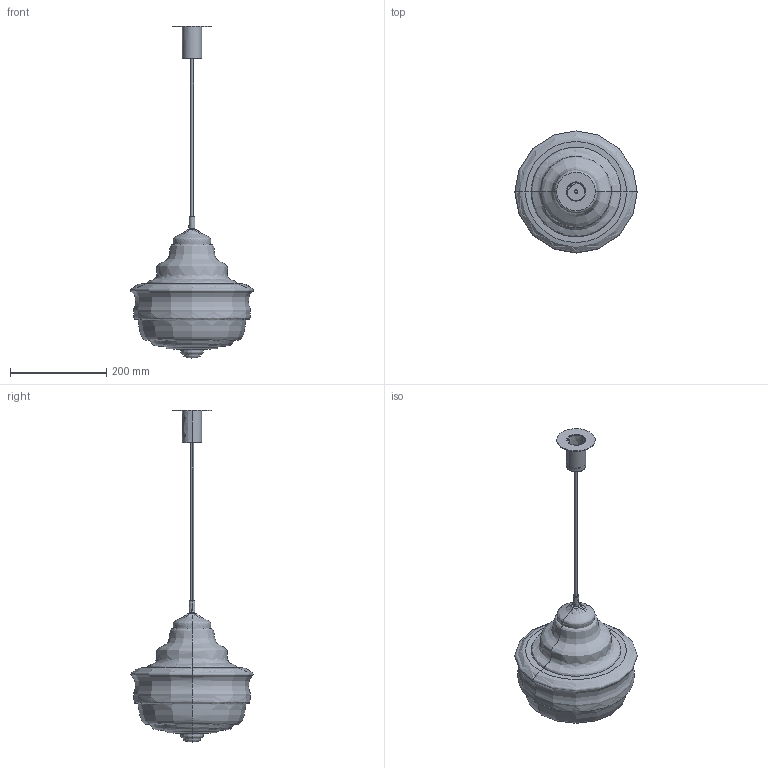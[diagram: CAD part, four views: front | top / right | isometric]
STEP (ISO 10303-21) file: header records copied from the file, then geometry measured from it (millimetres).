
FILE_DESCRIPTION(/* description */ (''),/* implementation_level */ '2;1');
FILE_NAME(/* name */ 'GARNIE~1',/* time_stamp */ '2017-11-23T11:01:47+01:00',/* author */ (''),/* organization */ (''),/* preprocessor_version */ 'ST-DEVELOPER v15',/* originating_system */ '',/* authorisation */ '');
FILE_SCHEMA (('AUTOMOTIVE_DESIGN'));
Length unit declared in the file: millimetre
Products named in the file (1): Document
Bounding box: 254.7 x 254.61 x 691.03 mm (x, y, z)
Volume: 521073.5 mm3; surface area: 437358.2 mm2
Topology: 9 solids, 9 shells, 110 faces, 281 edges, 181 vertices
Faces by surface type: bspline 84, plane 26
Entity records: 6690 total; most frequent: CARTESIAN_POINT 5004, ORIENTED_EDGE 550, EDGE_CURVE 275, VERTEX_POINT 181, EDGE_LOOP 130, B_SPLINE_CURVE_WITH_KNOTS 118, ADVANCED_FACE 110, FACE_OUTER_BOUND 110
